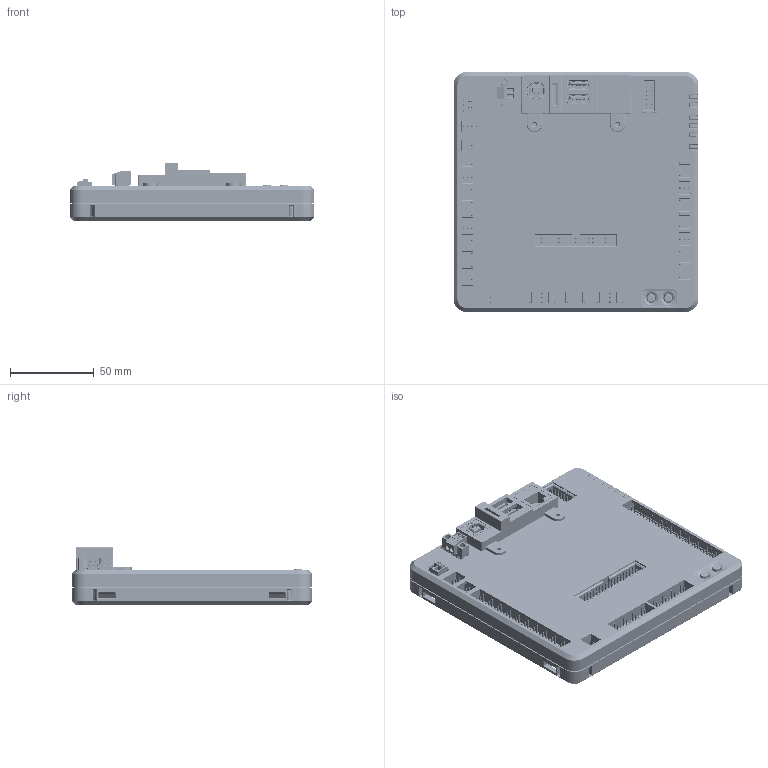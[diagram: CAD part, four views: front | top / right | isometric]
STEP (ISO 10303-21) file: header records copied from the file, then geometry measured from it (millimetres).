
FILE_DESCRIPTION (( 'STEP AP214' ), '1' );
FILE_NAME ('am-3000a National Instruments roboRIO 2.STEP', '2022-01-18T15:23:08', ( '' ), ( '' ), 'SwSTEP 2.0', 'SolidWorks 2021', '' );
FILE_SCHEMA (( 'AUTOMOTIVE_DESIGN' ));
Length unit declared in the file: millimetre
Products named in the file (1): am-3000a National Instruments roboRIO 2
Bounding box: 146.15 x 143.18 x 34.71 mm (x, y, z)
Volume: 172938.9 mm3; surface area: 182639.9 mm2
Topology: 4 solids, 4 shells, 13617 faces, 35331 edges, 21926 vertices
Faces by surface type: plane 8630, cylinder 2802, bspline 1546, torus 321, cone 160, sphere 158
Full cylindrical faces by diameter (mm): 0.7 x8, 0.89 x8, 0.9 x3, 0.914 x8, 0.92 x4, 1 x4, 1.016 x44, 1.067 x31, 1.1 x2, 1.194 x1, 1.2 x7, 1.52 x1, 1.6 x2, 1.702 x2, 2 x1, 2.156 x6, 2.3 x8, 2.6 x2, 2.8 x2, 2.9 x2, 3.2 x2, 3.251 x2, 4 x6, 4.826 x2, 5.563 x4, 8.128 x4
Entity records: 624188 total; most frequent: CARTESIAN_POINT 175130, ORIENTED_EDGE 69604, DIRECTION 58466, EDGE_CURVE 34802, LINE 25228, VECTOR 25228, VERTEX_POINT 21730, AXIS2_PLACEMENT_3D 16619
